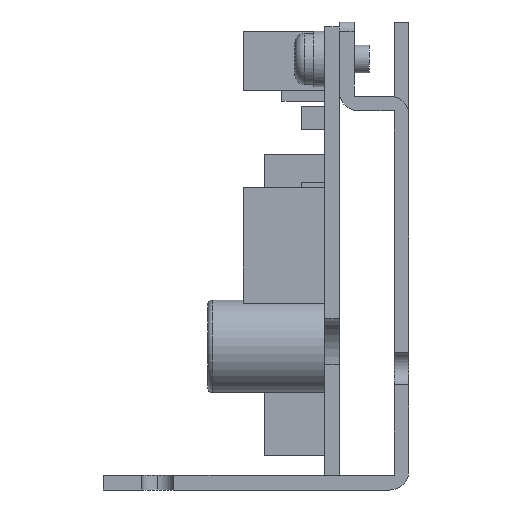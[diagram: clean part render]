
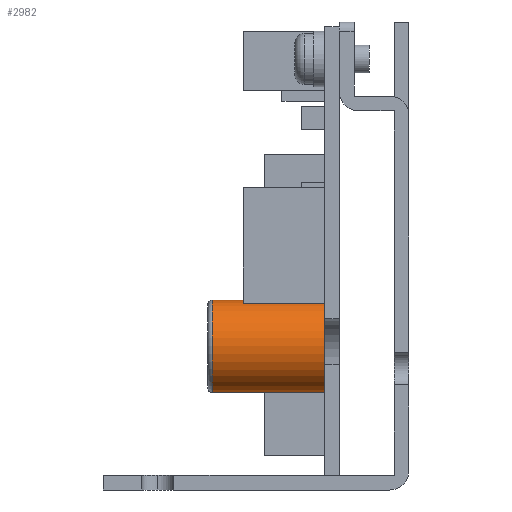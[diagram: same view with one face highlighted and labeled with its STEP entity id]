
A CAD part, left-side view. The second image highlights one B-rep face of the part: STEP entity #2982.
In plain terms, the highlighted cylindrical face has radius 5 mm (diameter 10 mm), a partial arc.
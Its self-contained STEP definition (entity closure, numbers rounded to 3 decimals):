
#197 = VECTOR ( 'NONE', #656, 1000. ) ;
#198 = VERTEX_POINT ( 'NONE', #748 ) ;
#338 = VECTOR ( 'NONE', #1670, 1000. ) ;
#574 = CARTESIAN_POINT ( 'NONE',  ( 9.2, 20.1, -26. ) ) ;
#616 = DIRECTION ( 'NONE',  ( 0., -1., 0. ) ) ;
#656 = DIRECTION ( 'NONE',  ( 0., -1., 0. ) ) ;
#678 = CIRCLE ( 'NONE', #4521, 5. ) ;
#700 = CARTESIAN_POINT ( 'NONE',  ( 9.2, 20.1, -36. ) ) ;
#733 = DIRECTION ( 'NONE',  ( 0., 1., 0. ) ) ;
#748 = CARTESIAN_POINT ( 'NONE',  ( 9.2, 7.5, -26. ) ) ;
#957 = AXIS2_PLACEMENT_3D ( 'NONE', #2846, #616, #3219 ) ;
#1218 = EDGE_CURVE ( 'NONE', #1377, #2387, #2152, .T. ) ;
#1278 = EDGE_LOOP ( 'NONE', ( #2421, #1461, #3806, #2901 ) ) ;
#1377 = VERTEX_POINT ( 'NONE', #2204 ) ;
#1461 = ORIENTED_EDGE ( 'NONE', *, *, #4477, .T. ) ;
#1604 = CARTESIAN_POINT ( 'NONE',  ( 9.2, 7.5, -36. ) ) ;
#1670 = DIRECTION ( 'NONE',  ( 0., -1., 0. ) ) ;
#2005 = CYLINDRICAL_SURFACE ( 'NONE', #2776, 5. ) ;
#2152 = LINE ( 'NONE', #700, #197 ) ;
#2204 = CARTESIAN_POINT ( 'NONE',  ( 9.2, 19.6, -36. ) ) ;
#2355 = FACE_OUTER_BOUND ( 'NONE', #1278, .T. ) ;
#2387 = VERTEX_POINT ( 'NONE', #1604 ) ;
#2421 = ORIENTED_EDGE ( 'NONE', *, *, #3996, .F. ) ;
#2701 = DIRECTION ( 'NONE',  ( 0., 0., -1. ) ) ;
#2714 = VERTEX_POINT ( 'NONE', #2731 ) ;
#2731 = CARTESIAN_POINT ( 'NONE',  ( 9.2, 19.6, -26. ) ) ;
#2776 = AXIS2_PLACEMENT_3D ( 'NONE', #2923, #4396, #2701 ) ;
#2846 = CARTESIAN_POINT ( 'NONE',  ( 9.2, 19.6, -31. ) ) ;
#2901 = ORIENTED_EDGE ( 'NONE', *, *, #3104, .T. ) ;
#2923 = CARTESIAN_POINT ( 'NONE',  ( 9.2, 20.1, -31. ) ) ;
#2982 = ADVANCED_FACE ( 'NONE', ( #2355 ), #2005, .T. ) ;
#3104 = EDGE_CURVE ( 'NONE', #2387, #198, #678, .T. ) ;
#3219 = DIRECTION ( 'NONE',  ( 0., 0., 1. ) ) ;
#3335 = CARTESIAN_POINT ( 'NONE',  ( 9.2, 7.5, -31. ) ) ;
#3806 = ORIENTED_EDGE ( 'NONE', *, *, #1218, .T. ) ;
#3996 = EDGE_CURVE ( 'NONE', #2714, #198, #4380, .T. ) ;
#4323 = CIRCLE ( 'NONE', #957, 5. ) ;
#4380 = LINE ( 'NONE', #574, #338 ) ;
#4396 = DIRECTION ( 'NONE',  ( 0., -1., 0. ) ) ;
#4457 = DIRECTION ( 'NONE',  ( 0., 0., 1. ) ) ;
#4477 = EDGE_CURVE ( 'NONE', #2714, #1377, #4323, .T. ) ;
#4521 = AXIS2_PLACEMENT_3D ( 'NONE', #3335, #733, #4457 ) ;
